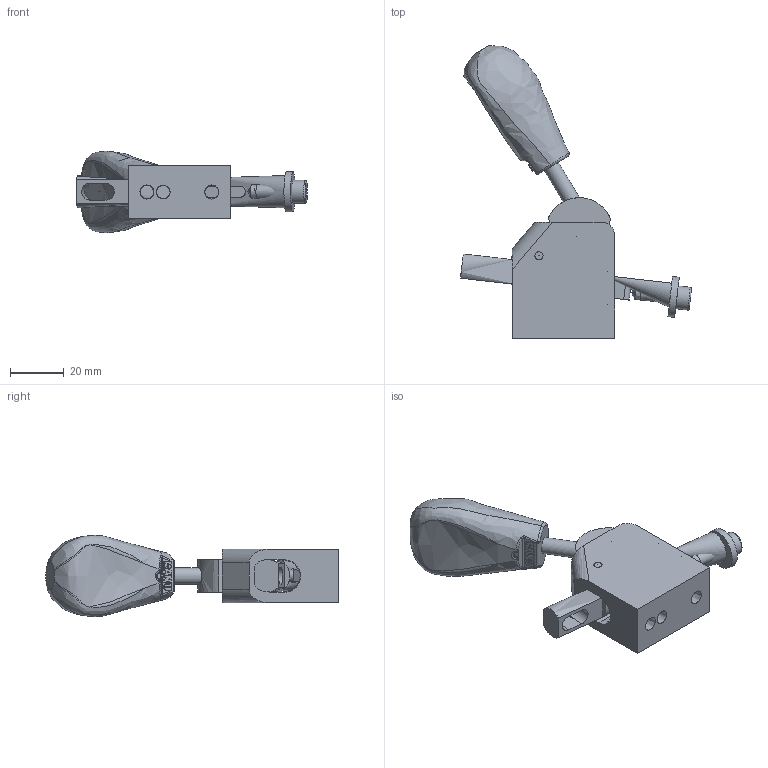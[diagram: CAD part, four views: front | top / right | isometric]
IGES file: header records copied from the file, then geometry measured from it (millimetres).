
Global section: file name: SUD-20ST-UNCLAMP; native system: Autodesk Inventor 2019; preprocessor: unknown; author: 桶田 勝弘,,  11,0; organization: 20171007.081954; date: 20240514.165042; units: millimetre
Bounding box: 85.6 x 108.38 x 30.18 mm (x, y, z)
Volume: 50478.9 mm3; surface area: 21119.8 mm2
Topology: 9 solids, 9 shells, 226 faces, 615 edges, 411 vertices
Faces by surface type: bspline 226
